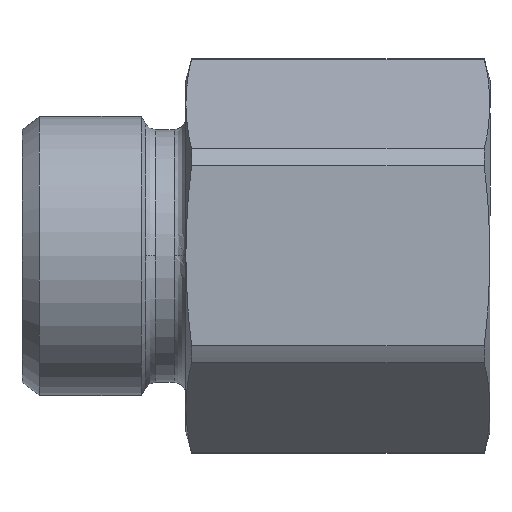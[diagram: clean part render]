
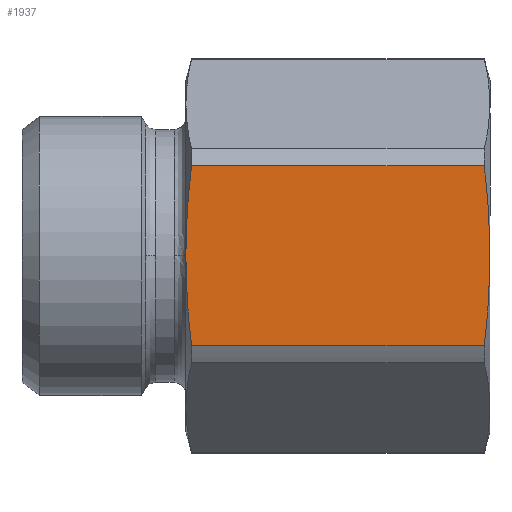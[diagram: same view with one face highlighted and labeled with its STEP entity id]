
A CAD part, top view. The second image highlights one B-rep face of the part: STEP entity #1937.
In plain terms, the highlighted planar face has unit normal (0, 0, 1) as drawn and (1, 0, 0) by its records, which use the part's own axes.
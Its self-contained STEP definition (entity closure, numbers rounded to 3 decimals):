
#1250=CARTESIAN_POINT('',(15.0,0.0,13.0));
#1251=VERTEX_POINT('',#1250);
#1315=CARTESIAN_POINT('',(15.,-7.676,12.504));
#1316=VERTEX_POINT('',#1315);
#1334=CARTESIAN_POINT('',(15.0,-7.676,-12.504));
#1335=VERTEX_POINT('',#1334);
#1343=CARTESIAN_POINT('',(15.0,-7.676,-12.504));
#1344=DIRECTION('',(0.0,0.0,1.0));
#1345=VECTOR('',#1344,25.009);
#1346=LINE('',#1343,#1345);
#1347=EDGE_CURVE('',#1335,#1316,#1346,.T.);
#1359=CARTESIAN_POINT('',(15.,7.676,12.504));
#1360=VERTEX_POINT('',#1359);
#1368=CARTESIAN_POINT('',(15.0,7.676,-12.504));
#1369=VERTEX_POINT('',#1368);
#1370=CARTESIAN_POINT('',(15.,7.676,12.504));
#1371=DIRECTION('',(0.0,0.0,-1.0));
#1372=VECTOR('',#1371,25.009);
#1373=LINE('',#1370,#1372);
#1374=EDGE_CURVE('',#1360,#1369,#1373,.T.);
#1870=CARTESIAN_POINT('',(15.,7.676,12.504));
#1871=CARTESIAN_POINT('',(15.0,3.615,13.));
#1872=CARTESIAN_POINT('',(15.0,0.0,13.0));
#1880=(BOUNDED_CURVE()B_SPLINE_CURVE(2,(#1870,#1871,#1872),.UNSPECIFIED.,.F.,.U.)B_SPLINE_CURVE_WITH_KNOTS((3,3),(6.392,14.801),.UNSPECIFIED.)CURVE()GEOMETRIC_REPRESENTATION_ITEM()RATIONAL_B_SPLINE_CURVE((1.047,1.054,1.0))REPRESENTATION_ITEM(''));
#1881=EDGE_CURVE('',#1360,#1251,#1880,.T.);
#1886=CARTESIAN_POINT('',(15.0,-8.66,0.0));
#1887=DIRECTION('',(1.0,0.0,0.0));
#1888=DIRECTION('',(0.0,0.0,-1.0));
#1889=AXIS2_PLACEMENT_3D('',#1886,#1887,#1888);
#1890=PLANE('',#1889);
#1891=ORIENTED_EDGE('',*,*,#1374,.F.);
#1892=ORIENTED_EDGE('',*,*,#1881,.T.);
#1893=CARTESIAN_POINT('',(15.0,0.0,13.0));
#1894=CARTESIAN_POINT('',(15.0,-3.615,13.));
#1895=CARTESIAN_POINT('',(15.,-7.676,12.504));
#1903=(BOUNDED_CURVE()B_SPLINE_CURVE(2,(#1893,#1894,#1895),.UNSPECIFIED.,.F.,.U.)B_SPLINE_CURVE_WITH_KNOTS((3,3),(14.801,23.21),.UNSPECIFIED.)CURVE()GEOMETRIC_REPRESENTATION_ITEM()RATIONAL_B_SPLINE_CURVE((1.0,1.054,1.047))REPRESENTATION_ITEM(''));
#1904=EDGE_CURVE('',#1251,#1316,#1903,.T.);
#1905=ORIENTED_EDGE('',*,*,#1904,.T.);
#1906=ORIENTED_EDGE('',*,*,#1347,.F.);
#1907=CARTESIAN_POINT('',(15.,0.0,-13.0));
#1908=VERTEX_POINT('',#1907);
#1909=CARTESIAN_POINT('',(15.0,-7.676,-12.504));
#1910=CARTESIAN_POINT('',(15.,-3.615,-13.));
#1911=CARTESIAN_POINT('',(15.,0.0,-13.0));
#1919=(BOUNDED_CURVE()B_SPLINE_CURVE(2,(#1909,#1910,#1911),.UNSPECIFIED.,.F.,.U.)B_SPLINE_CURVE_WITH_KNOTS((3,3),(6.392,14.801),.UNSPECIFIED.)CURVE()GEOMETRIC_REPRESENTATION_ITEM()RATIONAL_B_SPLINE_CURVE((1.047,1.054,1.0))REPRESENTATION_ITEM(''));
#1920=EDGE_CURVE('',#1335,#1908,#1919,.T.);
#1921=ORIENTED_EDGE('',*,*,#1920,.T.);
#1922=CARTESIAN_POINT('',(15.,0.0,-13.0));
#1923=CARTESIAN_POINT('',(15.,3.615,-13.));
#1924=CARTESIAN_POINT('',(15.0,7.676,-12.504));
#1932=(BOUNDED_CURVE()B_SPLINE_CURVE(2,(#1922,#1923,#1924),.UNSPECIFIED.,.F.,.U.)B_SPLINE_CURVE_WITH_KNOTS((3,3),(14.801,23.21),.UNSPECIFIED.)CURVE()GEOMETRIC_REPRESENTATION_ITEM()RATIONAL_B_SPLINE_CURVE((1.0,1.054,1.047))REPRESENTATION_ITEM(''));
#1933=EDGE_CURVE('',#1908,#1369,#1932,.T.);
#1934=ORIENTED_EDGE('',*,*,#1933,.T.);
#1935=EDGE_LOOP('',(#1891,#1892,#1905,#1906,#1921,#1934));
#1936=FACE_OUTER_BOUND('',#1935,.T.);
#1937=ADVANCED_FACE('',(#1936),#1890,.T.);
